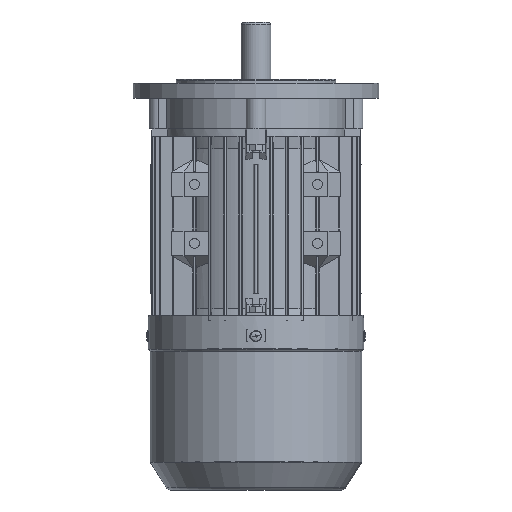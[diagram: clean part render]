
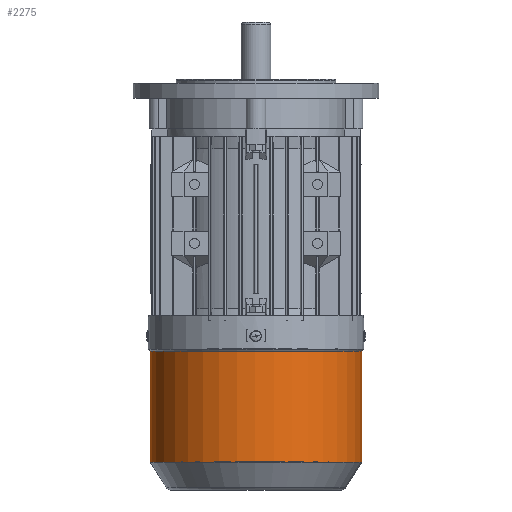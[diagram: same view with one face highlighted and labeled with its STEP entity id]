
A CAD part, front view. The second image highlights one B-rep face of the part: STEP entity #2275.
In plain terms, the highlighted cylindrical face has radius 86 mm (diameter 172 mm), a partial arc.
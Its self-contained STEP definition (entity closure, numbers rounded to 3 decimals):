
#2275 = ADVANCED_FACE ( 'NONE', ( #3602 ), #67147, .T. ) ;
#2690 = DIRECTION ( 'NONE',  ( 0., 0., -1. ) ) ;
#3602 = FACE_OUTER_BOUND ( 'NONE', #77584, .T. ) ;
#4266 = CARTESIAN_POINT ( 'NONE',  ( -115.448, 4.815, -189.9 ) ) ;
#6898 = VECTOR ( 'NONE', #28028, 1000. ) ;
#9519 = EDGE_CURVE ( 'NONE', #65211, #74435, #48273, .T. ) ;
#13120 = CARTESIAN_POINT ( 'NONE',  ( 56.548, 3.713, -209.612 ) ) ;
#16225 = CARTESIAN_POINT ( 'NONE',  ( -29.45, 4.264, -99.945 ) ) ;
#16333 = EDGE_CURVE ( 'NONE', #39407, #92002, #77411, .T. ) ;
#17796 = DIRECTION ( 'NONE',  ( 1., -0.006, 0. ) ) ;
#21091 = LINE ( 'NONE', #13120, #87123 ) ;
#22936 = DIRECTION ( 'NONE',  ( 0., 0., -1. ) ) ;
#24244 = AXIS2_PLACEMENT_3D ( 'NONE', #55401, #75630, #17796 ) ;
#28028 = DIRECTION ( 'NONE',  ( 0., 0., -1. ) ) ;
#32796 = CARTESIAN_POINT ( 'NONE',  ( -29.45, 4.264, -209.612 ) ) ;
#34178 = CARTESIAN_POINT ( 'NONE',  ( -115.448, 4.815, -209.612 ) ) ;
#37390 = DIRECTION ( 'NONE',  ( 1., -0.006, 0. ) ) ;
#39407 = VERTEX_POINT ( 'NONE', #41406 ) ;
#41406 = CARTESIAN_POINT ( 'NONE',  ( 56.548, 3.713, -99.945 ) ) ;
#46828 = ORIENTED_EDGE ( 'NONE', *, *, #62561, .T. ) ;
#47240 = ORIENTED_EDGE ( 'NONE', *, *, #67917, .F. ) ;
#48273 = CIRCLE ( 'NONE', #24244, 86. ) ;
#55401 = CARTESIAN_POINT ( 'NONE',  ( -29.45, 4.264, -189.9 ) ) ;
#60080 = DIRECTION ( 'NONE',  ( 1., -0.006, 0. ) ) ;
#62373 = LINE ( 'NONE', #34178, #6898 ) ;
#62561 = EDGE_CURVE ( 'NONE', #92002, #74435, #62373, .T. ) ;
#63793 = CARTESIAN_POINT ( 'NONE',  ( -115.448, 4.815, -99.945 ) ) ;
#65211 = VERTEX_POINT ( 'NONE', #79743 ) ;
#67147 = CYLINDRICAL_SURFACE ( 'NONE', #84557, 86. ) ;
#67917 = EDGE_CURVE ( 'NONE', #39407, #65211, #21091, .T. ) ;
#74435 = VERTEX_POINT ( 'NONE', #4266 ) ;
#75630 = DIRECTION ( 'NONE',  ( 0., 0., -1. ) ) ;
#75923 = AXIS2_PLACEMENT_3D ( 'NONE', #16225, #88660, #37390 ) ;
#77411 = CIRCLE ( 'NONE', #75923, 86. ) ;
#77584 = EDGE_LOOP ( 'NONE', ( #79857, #46828, #79544, #47240 ) ) ;
#79544 = ORIENTED_EDGE ( 'NONE', *, *, #9519, .F. ) ;
#79743 = CARTESIAN_POINT ( 'NONE',  ( 56.548, 3.713, -189.9 ) ) ;
#79857 = ORIENTED_EDGE ( 'NONE', *, *, #16333, .T. ) ;
#84557 = AXIS2_PLACEMENT_3D ( 'NONE', #32796, #2690, #60080 ) ;
#87123 = VECTOR ( 'NONE', #22936, 1000. ) ;
#88660 = DIRECTION ( 'NONE',  ( 0., 0., -1. ) ) ;
#92002 = VERTEX_POINT ( 'NONE', #63793 ) ;
